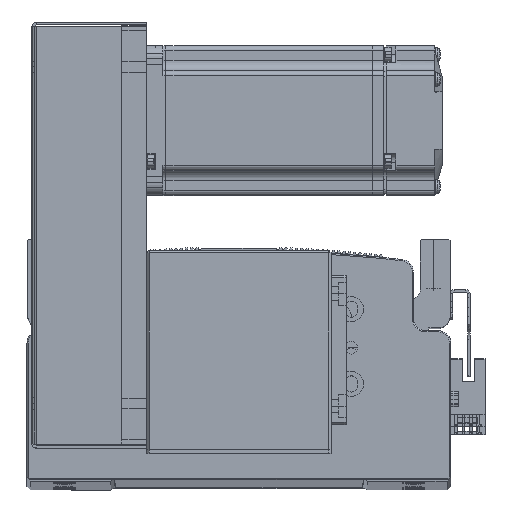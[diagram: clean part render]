
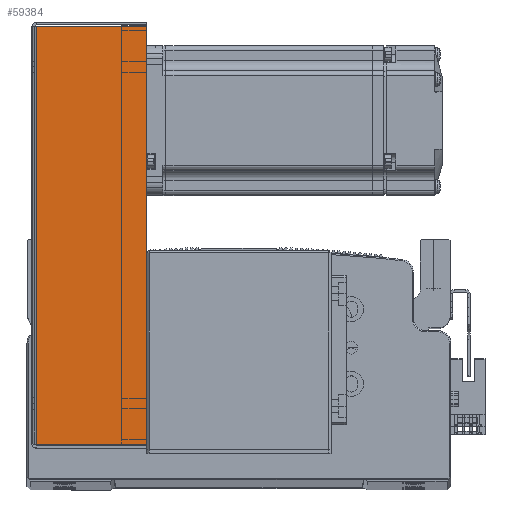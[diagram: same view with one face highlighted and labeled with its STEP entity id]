
A CAD part, top view. The second image highlights one B-rep face of the part: STEP entity #59384.
In plain terms, the highlighted planar face has unit normal (0, 0, 1) as drawn and (0, 0, -1) by its records, which use the part's own axes.
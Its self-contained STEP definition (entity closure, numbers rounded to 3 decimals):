
#9710 = DIRECTION ( 'NONE',  ( 0., 0., 1. ) ) ;
#9738 = CARTESIAN_POINT ( 'NONE',  ( 0., 0., -40.5 ) ) ;
#9752 = PLANE ( 'NONE',  #12385 ) ;
#9758 = DIRECTION ( 'NONE',  ( 0., -1., 0. ) ) ;
#11544 = FACE_OUTER_BOUND ( 'NONE', #73631, .T. ) ;
#12385 = AXIS2_PLACEMENT_3D ( 'NONE', #9738, #9710, #9758 ) ;
#34892 = VERTEX_POINT ( 'NONE', #72063 ) ;
#34900 = VERTEX_POINT ( 'NONE', #72059 ) ;
#34952 = VERTEX_POINT ( 'NONE', #72089 ) ;
#34991 = VERTEX_POINT ( 'NONE', #72068 ) ;
#40616 = ORIENTED_EDGE ( 'NONE', *, *, #41554, .F. ) ;
#40811 = ORIENTED_EDGE ( 'NONE', *, *, #41438, .T. ) ;
#40927 = ORIENTED_EDGE ( 'NONE', *, *, #41910, .F. ) ;
#40997 = ORIENTED_EDGE ( 'NONE', *, *, #41704, .T. ) ;
#41438 = EDGE_CURVE ( 'NONE', #34892, #34900, #68454, .T. ) ;
#41554 = EDGE_CURVE ( 'NONE', #34892, #34991, #68555, .T. ) ;
#41704 = EDGE_CURVE ( 'NONE', #34900, #34952, #68770, .T. ) ;
#41910 = EDGE_CURVE ( 'NONE', #34991, #34952, #68892, .T. ) ;
#49880 = CARTESIAN_POINT ( 'NONE',  ( -83.793, 0., -40.5 ) ) ;
#49886 = DIRECTION ( 'NONE',  ( 0., 1., 0. ) ) ;
#49979 = DIRECTION ( 'NONE',  ( 1., 0., 0. ) ) ;
#49990 = CARTESIAN_POINT ( 'NONE',  ( 0., 0.737, -40.5 ) ) ;
#50125 = DIRECTION ( 'NONE',  ( 1., 0., 0. ) ) ;
#50138 = CARTESIAN_POINT ( 'NONE',  ( 84.5, 45., -40.5 ) ) ;
#50246 = CARTESIAN_POINT ( 'NONE',  ( 83.793, 0., -40.5 ) ) ;
#50254 = DIRECTION ( 'NONE',  ( 0., 1., 0. ) ) ;
#59384 = ADVANCED_FACE ( 'NONE', ( #11544 ), #9752, .F. ) ;
#68454 = LINE ( 'NONE', #49880, #68458 ) ;
#68458 = VECTOR ( 'NONE', #49886, 1000. ) ;
#68555 = LINE ( 'NONE', #49990, #68558 ) ;
#68558 = VECTOR ( 'NONE', #49979, 1000. ) ;
#68756 = VECTOR ( 'NONE', #50125, 1000. ) ;
#68770 = LINE ( 'NONE', #50138, #68756 ) ;
#68892 = LINE ( 'NONE', #50246, #68969 ) ;
#68969 = VECTOR ( 'NONE', #50254, 1000. ) ;
#72059 = CARTESIAN_POINT ( 'NONE',  ( -83.793, 45., -40.5 ) ) ;
#72063 = CARTESIAN_POINT ( 'NONE',  ( -83.793, 0.737, -40.5 ) ) ;
#72068 = CARTESIAN_POINT ( 'NONE',  ( 83.793, 0.737, -40.5 ) ) ;
#72089 = CARTESIAN_POINT ( 'NONE',  ( 83.793, 45., -40.5 ) ) ;
#73631 = EDGE_LOOP ( 'NONE', ( #40616, #40811, #40997, #40927 ) ) ;
